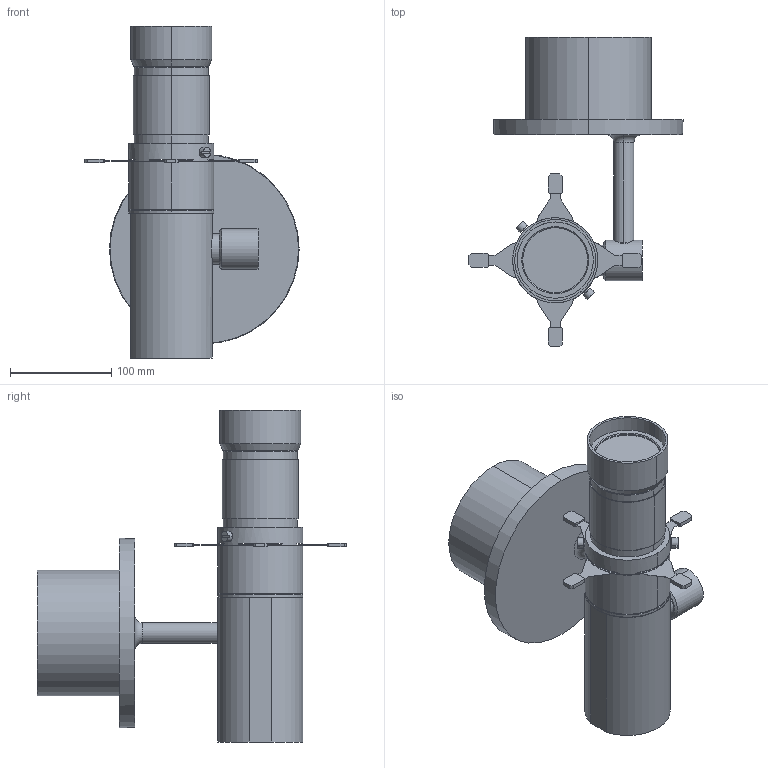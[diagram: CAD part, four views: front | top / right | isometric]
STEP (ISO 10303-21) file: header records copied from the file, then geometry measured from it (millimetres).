
FILE_DESCRIPTION (( 'STEP AP203' ), '1' );
FILE_NAME ('P1L (Monopoint)_Hanging+19D_10-06-2026.STEP', '2026-06-10T20:01:20', ( '' ), ( '' ), 'SwSTEP 2.0', 'SolidWorks 2014', '' );
FILE_SCHEMA (( 'CONFIG_CONTROL_DESIGN' ));
Length unit declared in the file: millimetre
Products named in the file (4): Monopoint_Yoke+PSU; 19D_Fresnel Lens_P1L.; P1L (Monopoint)_Hanging+19D_10-06-2026; P1L - Light Body
Assembly tree (3 placements, depth 2):
  P1L (Monopoint)_Hanging+19D_10-06-2026
    Monopoint_Yoke+PSU
    P1L - Light Body
    19D_Fresnel Lens_P1L.
Bounding box: 211.28 x 305.16 x 327.5 mm (x, y, z)
Volume: 2984132.8 mm3; surface area: 244657.8 mm2
Topology: 3 solids, 3 shells, 249 faces, 641 edges, 414 vertices
Faces by surface type: plane 154, cylinder 75, cone 18, torus 2
Entity records: 8213 total; most frequent: CARTESIAN_POINT 1560, DIRECTION 1343, ORIENTED_EDGE 1282, EDGE_CURVE 641, AXIS2_PLACEMENT_3D 457, LINE 429, VECTOR 429, VERTEX_POINT 414
